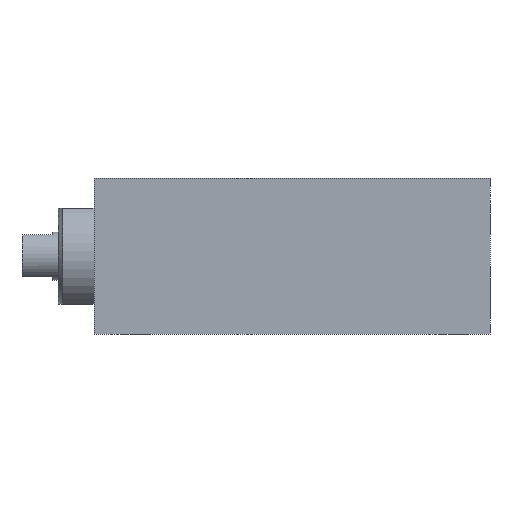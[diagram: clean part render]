
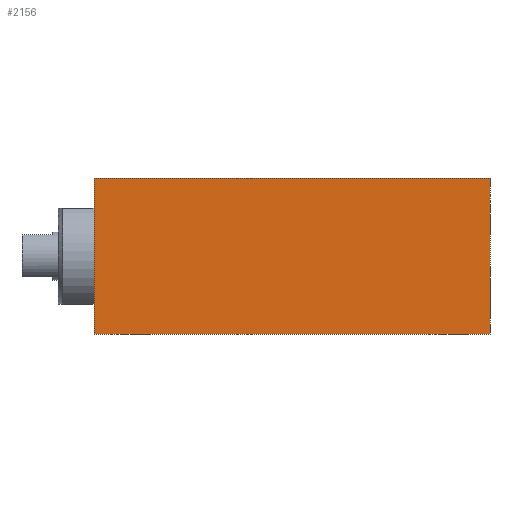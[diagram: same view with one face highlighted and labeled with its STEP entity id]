
A CAD part, front view. The second image highlights one B-rep face of the part: STEP entity #2156.
In plain terms, the highlighted planar face has unit normal (0, -1, 0).
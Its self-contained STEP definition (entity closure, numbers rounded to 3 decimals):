
#1 = ORIENTED_EDGE ( 'NONE', *, *, #1218, .F. ) ;
#13 = DIRECTION ( 'NONE',  ( 1., 0., 0. ) ) ;
#37 = ORIENTED_EDGE ( 'NONE', *, *, #1406, .T. ) ;
#88 = VECTOR ( 'NONE', #2351, 1000. ) ;
#110 = CARTESIAN_POINT ( 'NONE',  ( 33., -10., 6.5 ) ) ;
#279 = DIRECTION ( 'NONE',  ( 0., -1., 0. ) ) ;
#392 = VERTEX_POINT ( 'NONE', #749 ) ;
#413 = LINE ( 'NONE', #1692, #2527 ) ;
#551 = CARTESIAN_POINT ( 'NONE',  ( 33., -10., -6.5 ) ) ;
#602 = LINE ( 'NONE', #1760, #2290 ) ;
#749 = CARTESIAN_POINT ( 'NONE',  ( 33., -10., 6.5 ) ) ;
#1122 = EDGE_LOOP ( 'NONE', ( #1, #2244, #1209, #37 ) ) ;
#1209 = ORIENTED_EDGE ( 'NONE', *, *, #1252, .T. ) ;
#1218 = EDGE_CURVE ( 'NONE', #1405, #2122, #602, .T. ) ;
#1245 = CARTESIAN_POINT ( 'NONE',  ( 33., -10., -6.5 ) ) ;
#1252 = EDGE_CURVE ( 'NONE', #2336, #392, #413, .T. ) ;
#1389 = CARTESIAN_POINT ( 'NONE',  ( 33., -10., -6.5 ) ) ;
#1398 = LINE ( 'NONE', #551, #2179 ) ;
#1405 = VERTEX_POINT ( 'NONE', #2781 ) ;
#1406 = EDGE_CURVE ( 'NONE', #392, #2122, #2119, .T. ) ;
#1535 = DIRECTION ( 'NONE',  ( 0., 0., 1. ) ) ;
#1631 = CARTESIAN_POINT ( 'NONE',  ( 0., -10., 6.5 ) ) ;
#1692 = CARTESIAN_POINT ( 'NONE',  ( 33., -10., -6.5 ) ) ;
#1760 = CARTESIAN_POINT ( 'NONE',  ( 0., -10., -6.5 ) ) ;
#2033 = PLANE ( 'NONE',  #2090 ) ;
#2090 = AXIS2_PLACEMENT_3D ( 'NONE', #1389, #279, #13 ) ;
#2119 = LINE ( 'NONE', #110, #88 ) ;
#2122 = VERTEX_POINT ( 'NONE', #1631 ) ;
#2156 = ADVANCED_FACE ( 'NONE', ( #2735 ), #2033, .T. ) ;
#2164 = DIRECTION ( 'NONE',  ( 0., 0., 1. ) ) ;
#2179 = VECTOR ( 'NONE', #2580, 1000. ) ;
#2244 = ORIENTED_EDGE ( 'NONE', *, *, #2633, .F. ) ;
#2290 = VECTOR ( 'NONE', #1535, 1000. ) ;
#2336 = VERTEX_POINT ( 'NONE', #1245 ) ;
#2351 = DIRECTION ( 'NONE',  ( -1., 0., 0. ) ) ;
#2527 = VECTOR ( 'NONE', #2164, 1000. ) ;
#2580 = DIRECTION ( 'NONE',  ( -1., 0., 0. ) ) ;
#2633 = EDGE_CURVE ( 'NONE', #2336, #1405, #1398, .T. ) ;
#2735 = FACE_OUTER_BOUND ( 'NONE', #1122, .T. ) ;
#2781 = CARTESIAN_POINT ( 'NONE',  ( 0., -10., -6.5 ) ) ;
